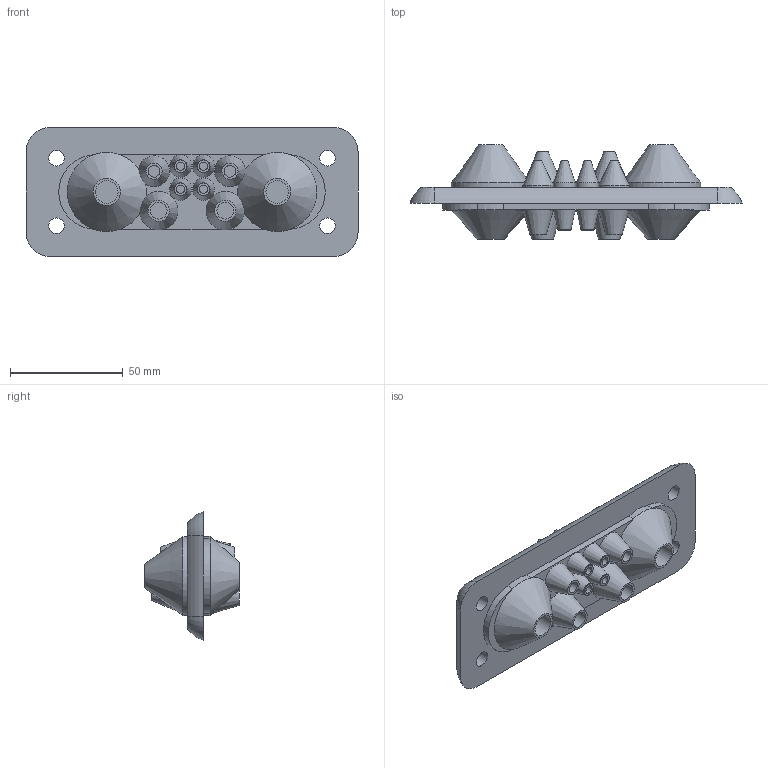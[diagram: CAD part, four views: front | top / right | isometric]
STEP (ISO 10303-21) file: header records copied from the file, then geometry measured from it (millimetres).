
FILE_DESCRIPTION(/* description */ ('STEP AP203'),/* implementation_level */ '2;1');
FILE_NAME(/* name */ '105044 MB 5_11',/* time_stamp */ '2024-10-07T14:08:20+02:00',/* author */ ('License CC BY-ND 4.0'),/* organization */ ('CADENAS'),/* preprocessor_version */ 'ST-DEVELOPER v19.3',/* originating_system */ 'PARTsolutions',/* authorisation */ ' ');
FILE_SCHEMA (('CONFIG_CONTROL_DESIGN'));
Length unit declared in the file: millimetre
Products named in the file (1): 105044 MB 5/11
Bounding box: 147 x 42 x 57 mm (x, y, z)
Volume: 104579.8 mm3; surface area: 27820.9 mm2
Topology: 1 solids, 1 shells, 109 faces, 232 edges, 146 vertices
Faces by surface type: plane 41, cylinder 36, cone 24, torus 8
Full cylindrical faces by diameter (mm): 3.6 x4, 5.2 x2, 7 x4, 7.4 x2, 9.8 x4, 10 x2
Entity records: 2692 total; most frequent: DIRECTION 508, CARTESIAN_POINT 474, ORIENTED_EDGE 344, AXIS2_PLACEMENT_3D 238, EDGE_LOOP 184, FACE_BOUND 184, EDGE_CURVE 172, VERTEX_POINT 132
